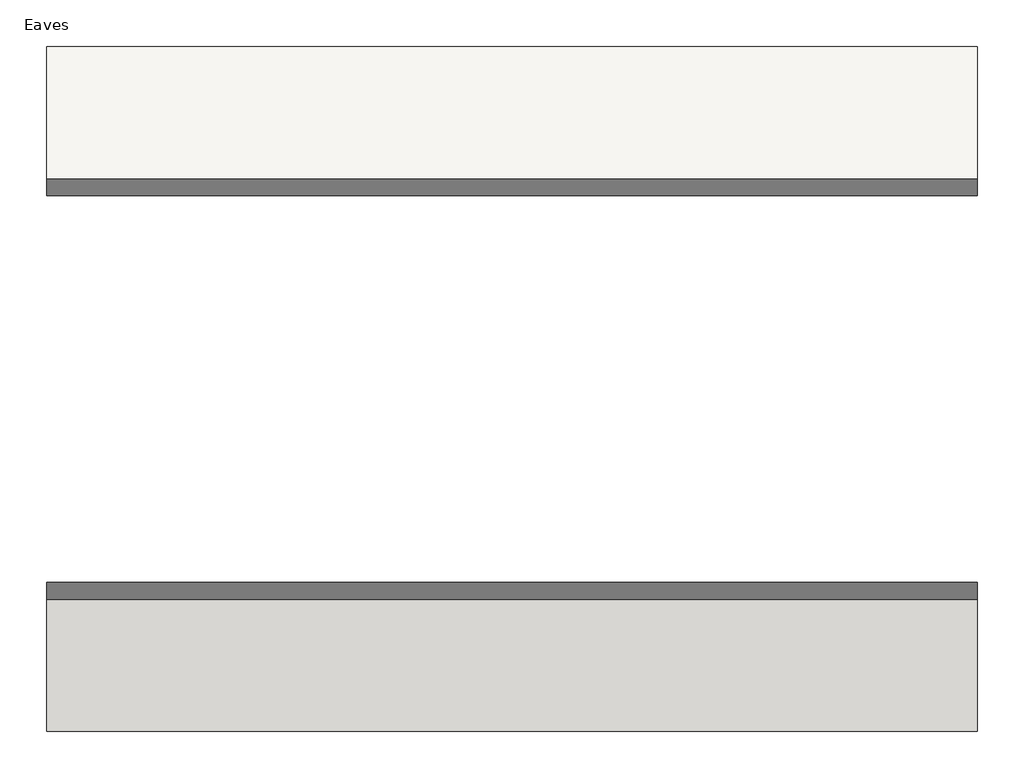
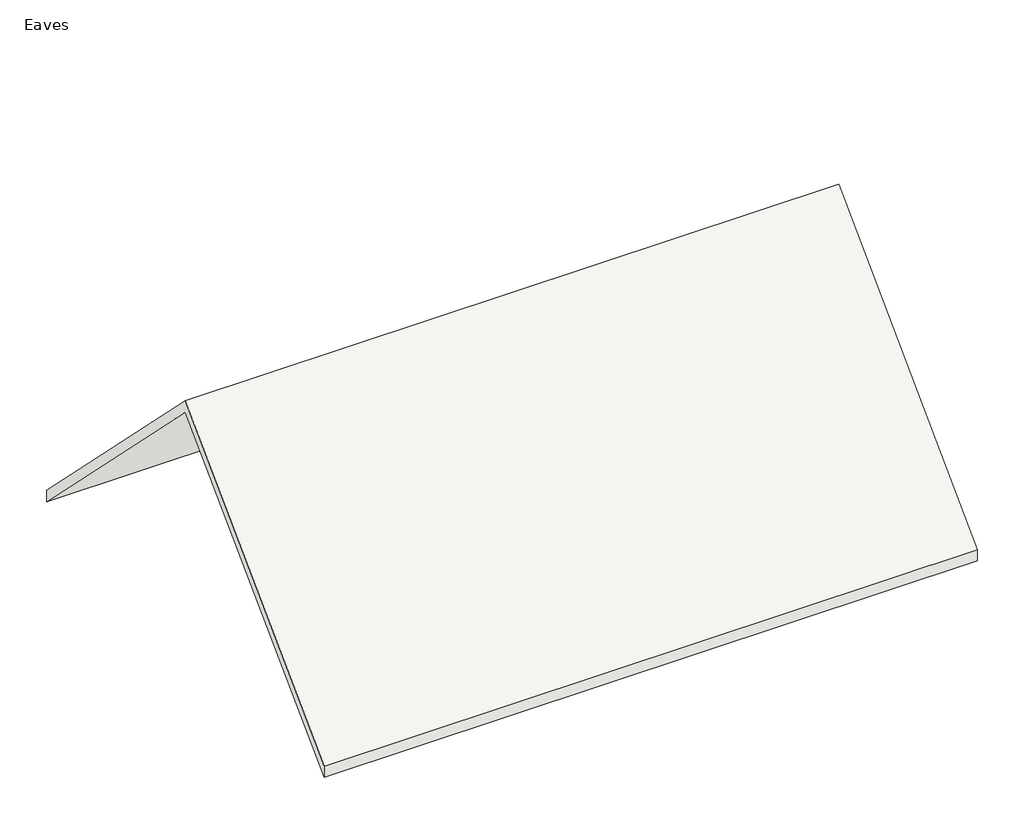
# One storey: 1 roof.
"""IFC4 building model written with IfcOpenShell, lengths in millimetres."""

from ifc_helpers import new_model, si_unit, frame, origin, place, context, project, spatial, polyline, outline, extrude, element, save

model = new_model("IFC4")

# Units and contexts
model_context = context("Model", 3, world=origin())
ifc_project = project(units=[si_unit("LENGTHUNIT", "METRE", prefix="MILLI")], contexts=[model_context])

# Site, building, storey
site = spatial("IfcSite", under=ifc_project)
building = spatial("IfcBuilding", under=site)
storey = spatial("IfcBuildingStorey", under=building, Name="Eaves", Elevation=5500.0)

# Roof
placement = place(None, origin())
element("IfcRoof", 1, ObjectType="Generic - 125mm", at=placement, inside=storey, context=model_context, shape_type="SweptSolid", body=[
    extrude(outline(polyline([(-9111.4820976, 5326.7766953), (-5549.669669, 8888.5891239), (-1987.8572404, 5326.7766953), (-1987.8572404, 5150.0), (-5549.669669, 8711.8124286), (-9111.4820976, 5150.0), (-9111.4820976, 5326.7766953)])), frame((-7274.8860857, 0.0, 0.0), z_axis=(1.0, 0.0, 0.0), x_axis=(0.0, 1.0, 0.0)), (0.0, 0.0, 1.0), 9680.0),
])

save(model, "model.ifc")
